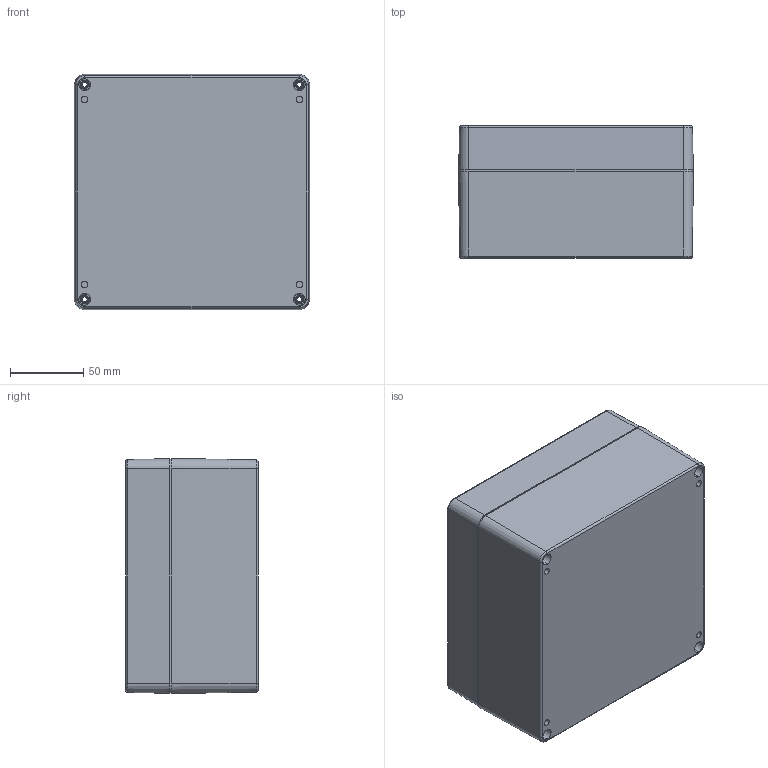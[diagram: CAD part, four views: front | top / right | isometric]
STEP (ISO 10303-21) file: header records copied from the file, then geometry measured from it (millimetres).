
FILE_DESCRIPTION (( 'STEP AP203' ), '1' );
FILE_NAME ('PE246.STEP', '2020-01-02T07:24:02', ( '' ), ( '' ), 'SwSTEP 2.0', 'SolidWorks 2020', '' );
FILE_SCHEMA (( 'CONFIG_CONTROL_DESIGN' ));
Length unit declared in the file: millimetre
Products named in the file (4): PE246
Assembly tree (3 placements, depth 2):
  PE246
    PE246
    PE246
    PE246
Bounding box: 160.37 x 90.1 x 160.37 mm (x, y, z)
Volume: 423737 mm3; surface area: 288180.4 mm2
Topology: 11 solids, 11 shells, 1370 faces, 3628 edges, 2352 vertices
Faces by surface type: bspline 440, cylinder 348, plane 310, cone 264, torus 8
Entity records: 47538 total; most frequent: CARTESIAN_POINT 15508, ORIENTED_EDGE 7248, DIRECTION 5792, EDGE_CURVE 3624, VERTEX_POINT 2352, AXIS2_PLACEMENT_3D 2128, LINE 1536, VECTOR 1536
